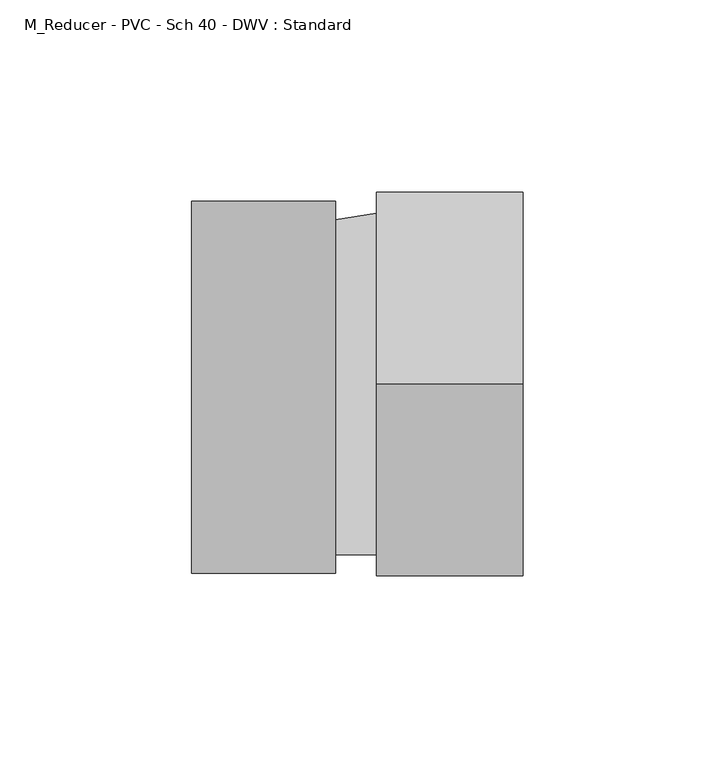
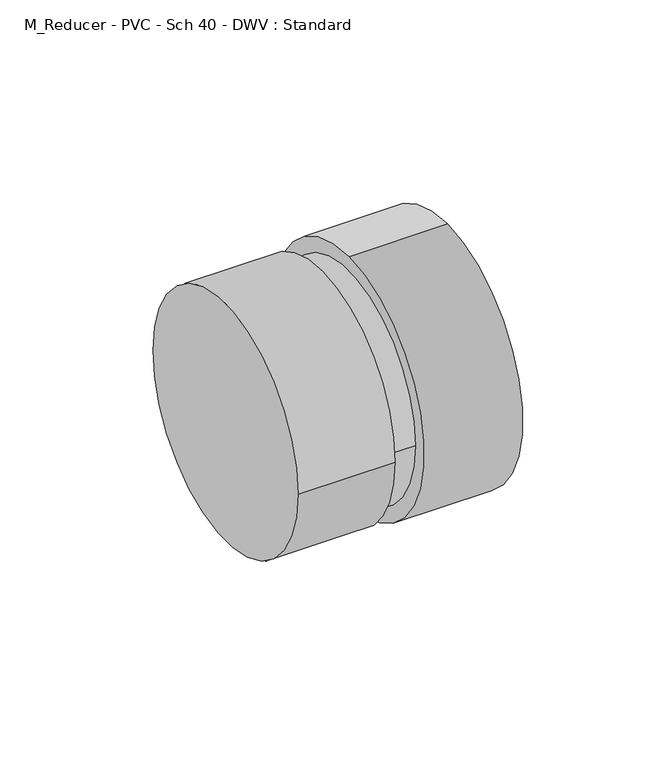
"""IFC4 building model written with IfcOpenShell, lengths in millimetres: pipe fitting geometry, M_Reducer - PVC - Sch 40 - DWV : Standard."""

import ifcopenshell
import ifcopenshell.guid

model = None  # the IFC model being written
_history = None  # IfcOwnerHistory: only IFC2X3 demands one
_inside = {}  # id of a spatial element -> (the spatial element, [elements in it])
_under = {}  # id of a project, library or spatial element -> (it, [spatial elements below it])
_declared = {}  # id of a project -> (the project, [libraries it declares])
_typed = {}  # id of a type object -> (the type object, [elements of that type])
_made_of = {}  # id of a material, layer set ... -> (it, [elements and type objects made of it])


def new_model(schema):
    """Start an empty IFC model of exactly this schema.

    Asked for "IFC4X3", IfcOpenShell would pick the latest addendum, in which some entities
    have other attributes; the version numbers below select the first issue.
    IFC2X3 requires an IfcOwnerHistory on every rooted entity: one is made here for all.
    """
    global model, _history
    if schema == "IFC4X3":
        model = ifcopenshell.file(schema_version=(4, 3, 0, 0))
    else:
        model = ifcopenshell.file(schema=schema)
    _inside.clear()
    _under.clear()
    _declared.clear()
    _typed.clear()
    _made_of.clear()
    _history = None
    if model.schema == "IFC2X3":
        org = make("IfcOrganization", Name="unknown")
        user = make(
            "IfcPersonAndOrganization",
            ThePerson=make("IfcPerson", FamilyName="unknown"),
            TheOrganization=org,
        )
        app = make(
            "IfcApplication",
            ApplicationDeveloper=org,
            Version="unknown",
            ApplicationFullName="unknown",
            ApplicationIdentifier="unknown",
        )
        _history = make(
            "IfcOwnerHistory",
            OwningUser=user,
            OwningApplication=app,
            ChangeAction="ADDED",
            CreationDate=0,
        )
    return model


def make(cls, **values):
    """One entity of the class cls with the attributes given. An attribute that is None is left unset."""
    return model.create_entity(
        cls, **{name: value for name, value in values.items() if value is not None}
    )


def rooted(cls, **values):
    """An entity with a GlobalId (a new one), such as an element, a storey or a relation."""
    return make(cls, GlobalId=ifcopenshell.guid.new(), OwnerHistory=_history, **values)


def si_unit(unit_type, name, prefix=None):
    """IfcSIUnit, for example si_unit("LENGTHUNIT", "METRE", prefix="MILLI")."""
    return make("IfcSIUnit", UnitType=unit_type, Prefix=prefix, Name=name)


def assignment(units):
    """IfcUnitAssignment: the units of a project."""
    return None if units is None else make("IfcUnitAssignment", Units=units)


def point(xyz):
    """IfcCartesianPoint."""
    return None if xyz is None else make("IfcCartesianPoint", Coordinates=xyz)


def direction(xyz):
    """IfcDirection."""
    return None if xyz is None else make("IfcDirection", DirectionRatios=xyz)


def frame(location, z_axis=None, x_axis=None):
    """IfcAxis2Placement3D, a coordinate frame: its origin and axes. An axis left out is left unset."""
    return make(
        "IfcAxis2Placement3D",
        Location=point(location),
        Axis=direction(z_axis),
        RefDirection=direction(x_axis),
    )


def origin():
    """The frame at (0, 0, 0) with its axes left unset."""
    return frame((0.0, 0.0, 0.0))


def place(relative_to, where):
    """IfcLocalPlacement: puts the frame where relative to a parent placement (None: the world)."""
    return make(
        "IfcLocalPlacement", PlacementRelTo=relative_to, RelativePlacement=where
    )


def context(
    kind, dimensions, precision=None, world=None, true_north=None, identifier=None
):
    """IfcGeometricRepresentationContext, for example the 3D "Model" context."""
    return make(
        "IfcGeometricRepresentationContext",
        ContextIdentifier=identifier,
        ContextType=kind,
        CoordinateSpaceDimension=dimensions,
        Precision=precision,
        WorldCoordinateSystem=world,
        TrueNorth=true_north,
    )


def project(units=None, contexts=None):
    """IfcProject with its units and contexts."""
    return rooted(
        "IfcProject",
        Name="project",
        RepresentationContexts=contexts,
        UnitsInContext=assignment(units),
    )


def spatial(cls, under=None, at=None, **own):
    """A site, building, storey or space (cls), placed at a placement, below another one or the project."""
    s = rooted(cls, ObjectPlacement=at, **own)
    if under is not None:
        _under.setdefault(under.id(), (under, []))[1].append(s)
    return s


def circle_curve(where, radius):
    """IfcCircle in the frame where."""
    return make("IfcCircle", Position=where, Radius=radius)


def shape(context_of_items, identifier, shape_type, items):
    """IfcShapeRepresentation: the items that make up one representation, for example the "Body"."""
    return make(
        "IfcShapeRepresentation",
        ContextOfItems=context_of_items,
        RepresentationIdentifier=identifier,
        RepresentationType=shape_type,
        Items=items,
    )


def source(mapping_origin, context_of_items, identifier, shape_type, items):
    """IfcRepresentationMap: a shape defined once, which mapped items show again and again."""
    return make(
        "IfcRepresentationMap",
        MappingOrigin=mapping_origin,
        MappedRepresentation=shape(context_of_items, identifier, shape_type, items),
    )


def transform(
    local_origin,
    x_axis=None,
    y_axis=None,
    z_axis=None,
    scale=None,
    scale2=None,
    scale3=None,
    uniform=True,
):
    """IfcCartesianTransformationOperator3D, or its non-uniform kind. x_axis, y_axis, z_axis: its Axis1, 2, 3."""
    if uniform:
        return make(
            "IfcCartesianTransformationOperator3D",
            Axis1=direction(x_axis),
            Axis2=direction(y_axis),
            LocalOrigin=point(local_origin),
            Scale=scale,
            Axis3=direction(z_axis),
        )
    return make(
        "IfcCartesianTransformationOperator3DnonUniform",
        Axis1=direction(x_axis),
        Axis2=direction(y_axis),
        LocalOrigin=point(local_origin),
        Scale=scale,
        Axis3=direction(z_axis),
        Scale2=scale2,
        Scale3=scale3,
    )


def mapped(mapping_source, mapping_target):
    """IfcMappedItem: shows the shape of a source again, moved by a transform."""
    return make(
        "IfcMappedItem", MappingSource=mapping_source, MappingTarget=mapping_target
    )


def made_of(thing, what):
    """Note that an element or type object is made of a material, layer set ...; save() writes the relation."""
    if what is not None:
        _made_of.setdefault(what.id(), (what, []))[1].append(thing)
    return thing


def element(
    cls,
    number,
    at=None,
    inside=None,
    cuts=None,
    type_object=None,
    material=None,
    context=None,
    identifier="Body",
    shape_type=None,
    held_by="IfcProductDefinitionShape",
    body=None,
    shapes=None,
    **own,
):
    """One element of the class cls, such as IfcWall. Its Tag is "e" and its number.

    at: its placement. inside: the storey or other place that contains it. cuts: it is an
    opening in that element (IfcRelVoidsElement). A single representation is given by context,
    identifier, shape_type and body (its items); several are given by shapes. held_by: the class
    of the entity that holds the representations. save() writes the other relations.
    """
    e = rooted(cls, Tag="e%d" % number, ObjectPlacement=at, **own)
    if body is not None:
        shapes = [shape(context, identifier, shape_type, body)]
    if shapes is not None:
        e.Representation = make(held_by, Representations=shapes)
    if inside is not None:
        _inside.setdefault(inside.id(), (inside, []))[1].append(e)
    if cuts is not None:
        rooted(
            "IfcRelVoidsElement", RelatingBuildingElement=cuts, RelatedOpeningElement=e
        )
    if type_object is not None:
        _typed.setdefault(type_object.id(), (type_object, []))[1].append(e)
    return made_of(e, material)


def aggregate(whole, parts):
    """IfcRelAggregates: a whole, such as a stair, and the parts it consists of."""
    return rooted("IfcRelAggregates", RelatingObject=whole, RelatedObjects=parts)


def save(model, path):
    """Write the relations noted so far, then the file.

    IfcRelAggregates (storeys below a building ...), IfcRelContainedInSpatialStructure (elements
    in a storey), IfcRelDefinesByType, IfcRelAssociatesMaterial and IfcRelDeclares: one each for
    every whole, place, type object, material and project.
    """
    for whole, parts in _under.values():
        aggregate(whole, parts)
    for where, things in _inside.values():
        rooted(
            "IfcRelContainedInSpatialStructure",
            RelatedElements=things,
            RelatingStructure=where,
        )
    for kind, things in _typed.values():
        rooted("IfcRelDefinesByType", RelatedObjects=things, RelatingType=kind)
    for what, things in _made_of.values():
        rooted("IfcRelAssociatesMaterial", RelatedObjects=things, RelatingMaterial=what)
    for by, libraries in _declared.values():
        rooted("IfcRelDeclares", RelatingContext=by, RelatedDefinitions=libraries)
    model.write(path)


def plane_surface(at):
    """IfcPlane: the flat surface through the origin of the frame at, square to its z axis."""
    return make("IfcPlane", Position=at)


def cylinder_surface(at, radius):
    """IfcCylindricalSurface: all points at the distance radius from the z axis of the frame at."""
    return make("IfcCylindricalSurface", Position=at, Radius=radius)


def spline_surface(u_degree, v_degree, points, u_multiplicities, v_multiplicities, u_knots, v_knots, weights=None):
    """IfcBSplineSurfaceWithKnots; with weights, IfcRationalBSplineSurfaceWithKnots. points: one row for each step in u."""
    own = dict(
        UDegree=u_degree,
        VDegree=v_degree,
        ControlPointsList=[[point(p) for p in row] for row in points],
        SurfaceForm="UNSPECIFIED",
        UClosed=False,
        VClosed=False,
        SelfIntersect=False,
        UMultiplicities=u_multiplicities,
        VMultiplicities=v_multiplicities,
        UKnots=u_knots,
        VKnots=v_knots,
        KnotSpec="UNSPECIFIED",
    )
    if weights is None:
        return make("IfcBSplineSurfaceWithKnots", **own)
    return make("IfcRationalBSplineSurfaceWithKnots", WeightsData=weights, **own)


def advanced_brep(points, edges, surfaces, faces):
    """IfcAdvancedBrep: a solid bounded by faces that lie on surfaces and meet in shared edges.

    An edge is (start, end): straight between two places in points (the first is 0);
    or (start, end, curve); or (start, end, curve, False) where it runs against its curve.
    A face is (place in surfaces, loops), or (place, loops, False) where it looks against
    its surface's normal. A loop lists edges by number (the first is 1), with a minus sign
    where the edge is run from its end to its start. The first loop is the outer one.
    """
    corners = [point(p) for p in points]
    vertices = [make("IfcVertexPoint", VertexGeometry=c) for c in corners]
    made = []
    for start, end, *more in edges:
        made.append(
            make(
                "IfcEdgeCurve",
                EdgeStart=vertices[start],
                EdgeEnd=vertices[end],
                EdgeGeometry=more[0] if more else make("IfcPolyline", Points=[corners[start], corners[end]]),
                SameSense=more[1] if len(more) > 1 else True,
            )
        )
    hull = []
    for where, loops, *sense in faces:
        bounds = []
        for j, loop in enumerate(loops):
            ring = [make("IfcOrientedEdge", EdgeElement=made[abs(k) - 1], Orientation=k > 0) for k in loop]
            bounds.append(
                make(
                    "IfcFaceOuterBound" if j == 0 else "IfcFaceBound",
                    Bound=make("IfcEdgeLoop", EdgeList=ring),
                    Orientation=True,
                )
            )
        hull.append(make("IfcAdvancedFace", Bounds=bounds, FaceSurface=surfaces[where], SameSense=sense[0] if sense else True))
    return make("IfcAdvancedBrep", Outer=make("IfcClosedShell", CfsFaces=hull))


def m_reducer_pvc_sch_40_dwv_standard_d3fc8f65(model_context):
    return source(origin(), model_context, "Body", "AdvancedBrep", [
        advanced_brep(
        [(0.0, -48.4871094, 0.0), (0.0, 48.4871094, 0.0), (37.5, -48.4871094, 0.0), (37.5, 48.4871094, 0.0), (37.5, 43.5640625, 0.0), (37.5, -43.5640625, 0.0), (48.1460938, 45.2915361, 0.0), (48.1460938, -43.6084639, 0.0), (48.1460938, 0.8415361, 50.2666), (48.1460938, 0.8415361, -50.2666), (86.2460938, 0.8415361, 50.2666), (86.2460938, 0.8415361, -50.2666)],
        [
            (0, 1, circle_curve(frame((0.0, 0.0, 0.0), z_axis=(-1.0, 0.0, 0.0), x_axis=(0.0, 1.0, 0.0)), 48.4871094)),
            (1, 0, circle_curve(frame((0.0, 0.0, 0.0), z_axis=(-1.0, 0.0, 0.0), x_axis=(0.0, 1.0, 0.0)), 48.4871094)),
            (2, 3, circle_curve(frame((37.5, 0.0, 0.0), z_axis=(1.0, 0.0, 0.0), x_axis=(0.0, 1.0, 0.0)), 48.4871094)),
            (3, 2, circle_curve(frame((37.5, 0.0, 0.0), z_axis=(1.0, 0.0, 0.0), x_axis=(0.0, 1.0, 0.0)), 48.4871094)),
            (4, 5, circle_curve(frame((37.5, 0.0, 0.0), z_axis=(-1.0, 0.0, 0.0), x_axis=(0.0, 1.0, 0.0)), 43.5640625)),
            (5, 4, circle_curve(frame((37.5, 0.0, 0.0), z_axis=(-1.0, 0.0, 0.0), x_axis=(0.0, 1.0, 0.0)), 43.5640625)),
            (0, 2),
            (3, 1),
            (4, 6),
            (6, 7, circle_curve(frame((48.1460938, 0.8415361, 0.0), z_axis=(-1.0, 0.0, 0.0), x_axis=(0.0, 1.0, 0.0)), 44.45)),
            (7, 5),
            (7, 6, circle_curve(frame((48.1460938, 0.8415361, 0.0), z_axis=(-1.0, 0.0, 0.0), x_axis=(0.0, 1.0, 0.0)), 44.45)),
            (8, 9, circle_curve(frame((48.1460938, 0.8415361, 0.0), z_axis=(-1.0, 0.0, 0.0), x_axis=(0.0, 0.0, -1.0)), 50.2666)),
            (9, 8, circle_curve(frame((48.1460938, 0.8415361, 0.0), z_axis=(-1.0, 0.0, 0.0), x_axis=(0.0, 0.0, -1.0)), 50.2666)),
            (10, 11, circle_curve(frame((86.2460938, 0.8415361, 0.0), z_axis=(1.0, 0.0, 0.0), x_axis=(0.0, 0.0, -1.0)), 50.2666)),
            (11, 10, circle_curve(frame((86.2460938, 0.8415361, 0.0), z_axis=(1.0, 0.0, 0.0), x_axis=(0.0, 0.0, -1.0)), 50.2666)),
            (8, 10),
            (11, 9),
        ],
        [
            plane_surface(frame((0.0, 0.0, 0.0), z_axis=(-1.0, 0.0, 0.0), x_axis=(0.0, 0.0, 1.0))),
            plane_surface(frame((37.5, 0.0, 0.0), z_axis=(1.0, 0.0, 0.0), x_axis=(0.0, 0.0, 1.0))),
            cylinder_surface(frame((0.0, 0.0, 0.0), z_axis=(-1.0, 0.0, 0.0), x_axis=(0.0, 1.0, 0.0)), 48.4871094),
            spline_surface(2, 1, [[(37.5, -43.5640625, 0.0), (48.1460938, -43.6084639, 0.0)], [(37.5, -43.5640625, -43.5640625), (48.1460938, -43.6084639, -44.449999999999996)], [(37.5, 0.0, -43.5640625), (48.1460938, 0.8415361, -44.449999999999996)], [(37.5, 43.5640625, -43.56406249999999), (48.1460938, 45.291536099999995, -44.44999999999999)], [(37.5, 43.5640625, 0.0), (48.1460938, 45.2915361, 0.0)]], [3, 2, 3], [2, 2], [0.0, 1.0, 2.0], [0.0, 1.0], weights=[[1.0, 1.0], [0.7071067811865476, 0.7071067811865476], [1.0, 1.0], [0.7071067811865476, 0.7071067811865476], [1.0, 1.0]]),
            spline_surface(2, 1, [[(37.5, 43.5640625, 0.0), (48.1460938, 45.2915361, 0.0)], [(37.5, 43.5640625, 43.5640625), (48.1460938, 45.2915361, 44.45)], [(37.5, 0.0, 43.5640625), (48.1460938, 0.8415361, 44.45)], [(37.5, -43.5640625, 43.564062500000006), (48.1460938, -43.608463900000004, 44.45000000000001)], [(37.5, -43.5640625, 0.0), (48.1460938, -43.6084639, 0.0)]], [3, 2, 3], [2, 2], [0.0, 1.0, 2.0], [0.0, 1.0], weights=[[1.0, 1.0], [0.7071067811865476, 0.7071067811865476], [1.0, 1.0], [0.7071067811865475, 0.7071067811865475], [1.0, 1.0]]),
            plane_surface(frame((48.1460938, 0.8415361, 0.0), z_axis=(-1.0, 0.0, 0.0), x_axis=(0.0, 1.0, 0.0))),
            plane_surface(frame((86.2460938, 0.8415361, 0.0), z_axis=(1.0, 0.0, 0.0), x_axis=(0.0, 1.0, 0.0))),
            cylinder_surface(frame((48.1460938, 0.8415361, 0.0), z_axis=(-1.0, 0.0, 0.0), x_axis=(0.0, 0.0, -1.0)), 50.2666),
        ],
        [
            (0, [[1, 2]]),
            (1, [[3, 4], [5, 6]]),
            (2, [[-1, 7, -4, 8]]),
            (2, [[-2, -8, -3, -7]]),
            (3, [[9, 10, 11, -5]]),
            (4, [[-9, -6, -11, 12]]),
            (5, [[13, 14], [-10, -12]]),
            (6, [[15, 16]]),
            (7, [[-13, 17, -16, 18]]),
            (7, [[-14, -18, -15, -17]]),
        ],
    ),
    ])


if __name__ == "__main__":
    model = new_model("IFC4")
    model_context = context("Model", 3, world=origin())
    ifc_project = project(units=[si_unit("LENGTHUNIT", "METRE", prefix="MILLI")], contexts=[model_context])
    site = spatial("IfcSite", under=ifc_project)
    building = spatial("IfcBuilding", under=site)
    placement = place(None, origin())
    m_reducer_pvc_sch_40_dwv_standard_shape = m_reducer_pvc_sch_40_dwv_standard_d3fc8f65(model_context)
    element("IfcPipeFitting", 1, ObjectType="M_Reducer - PVC - Sch 40 - DWV : Standard", at=placement, inside=building, context=model_context, shape_type="MappedRepresentation", body=[
        mapped(m_reducer_pvc_sch_40_dwv_standard_shape, transform((0.0, 0.0, 0.0), x_axis=(1.0, 0.0, 0.0), y_axis=(0.0, 1.0, 0.0), z_axis=(0.0, 0.0, 1.0))),
    ])
    save(model, "model.ifc")
